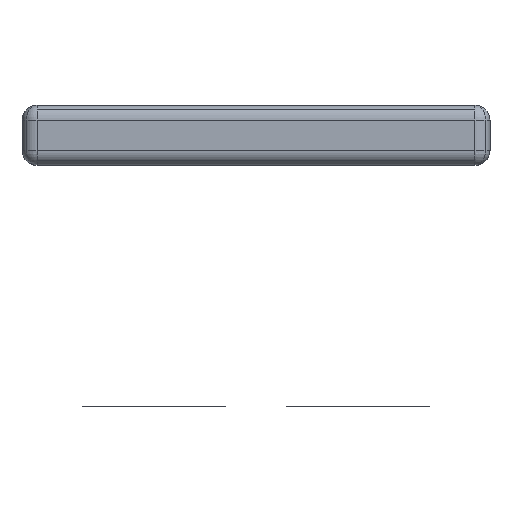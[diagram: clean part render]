
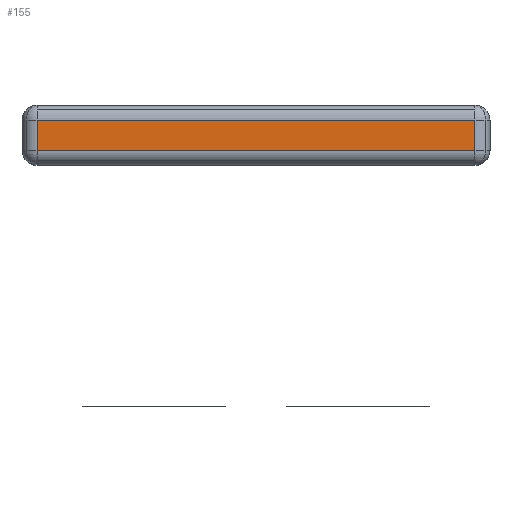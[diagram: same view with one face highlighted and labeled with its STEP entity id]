
A CAD part, front view. The second image highlights one B-rep face of the part: STEP entity #155.
In plain terms, the highlighted planar face has unit normal (0, -1, 0).
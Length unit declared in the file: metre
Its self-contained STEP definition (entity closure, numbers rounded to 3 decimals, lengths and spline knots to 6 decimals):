
#155=ADVANCED_FACE('0:402',(#340),#341,.T.);
#340=FACE_OUTER_BOUND('',#567,.T.);
#341=PLANE('',#568);
#567=EDGE_LOOP('',(#1314,#1315,#1316,#1317));
#568=AXIS2_PLACEMENT_3D('',#1318,#1319,#1320);
#1314=ORIENTED_EDGE('',*,*,#1541,.F.);
#1315=ORIENTED_EDGE('',*,*,#1685,.F.);
#1316=ORIENTED_EDGE('',*,*,#1686,.F.);
#1317=ORIENTED_EDGE('',*,*,#1499,.F.);
#1318=CARTESIAN_POINT('',(0.00775,0.0,0.0));
#1319=DIRECTION('',(0.0,-1.0,0.0));
#1320=DIRECTION('',(1.0,0.0,0.0));
#1499=EDGE_CURVE('4:33',#1799,#1801,#1802,.T.);
#1541=EDGE_CURVE('4:530',#1870,#1799,#1877,.T.);
#1685=EDGE_CURVE('4:24',#1778,#1870,#2071,.T.);
#1686=EDGE_CURVE('4:497',#1801,#1778,#2072,.T.);
#1778=VERTEX_POINT('',#2217);
#1799=VERTEX_POINT('',#2245);
#1801=VERTEX_POINT('',#2247);
#1802=LINE('',#2248,#2249);
#1870=VERTEX_POINT('',#2333);
#1877=LINE('',#2341,#2342);
#2071=LINE('',#2690,#2691);
#2072=LINE('',#2692,#2693);
#2217=CARTESIAN_POINT('',(0.015,0.0,0.0025));
#2245=CARTESIAN_POINT('',(0.0005,0.0,0.0015));
#2247=CARTESIAN_POINT('',(0.0005,0.0,0.0025));
#2248=CARTESIAN_POINT('',(0.0005,0.0,0.0));
#2249=VECTOR('',#2892,1.0);
#2333=CARTESIAN_POINT('',(0.015,0.0,0.0015));
#2341=CARTESIAN_POINT('',(0.003875,0.0,0.0015));
#2342=VECTOR('',#2982,1.0);
#2690=CARTESIAN_POINT('',(0.015,0.0,0.0));
#2691=VECTOR('',#3102,1.0);
#2692=CARTESIAN_POINT('',(0.003875,0.0,0.0025));
#2693=VECTOR('',#3103,1.0);
#2892=DIRECTION('',(0.0,0.0,1.0));
#2982=DIRECTION('',(-1.0,0.0,0.0));
#3102=DIRECTION('',(0.0,-0.0,-1.0));
#3103=DIRECTION('',(1.0,-0.0,-0.0));
